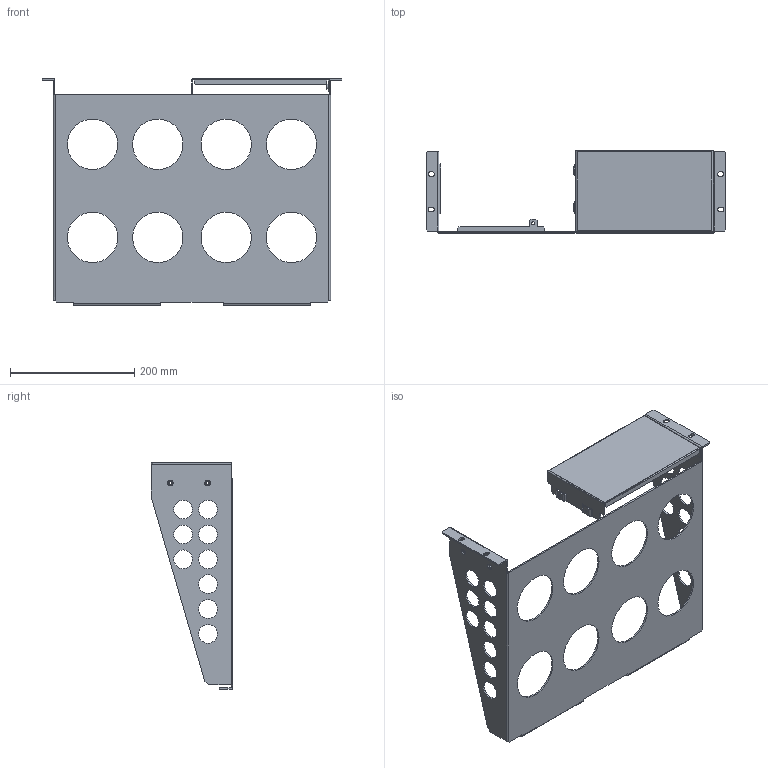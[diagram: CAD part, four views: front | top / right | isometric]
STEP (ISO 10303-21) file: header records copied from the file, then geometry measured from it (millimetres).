
FILE_DESCRIPTION((''),'2;1');
FILE_NAME('GRA-452_ASM','2023-06-29T11:43:07',('mike_lee'),(''),'CREO PARAMETRIC BY PTC INC, 2019080','CREO PARAMETRIC BY PTC INC, 2019080','');
FILE_SCHEMA(('CONFIG_CONTROL_DESIGN'));
Length unit declared in the file: millimetre
Products named in the file (7): 62RA-8330LO; 62RA-452LO-H; 62RA-452LO101_ASM; 62RA-8330HP; S-M4-1_NUT; 62RA-452HP101_ASM; GRA-452_ASM
Assembly tree (8 placements, depth 3):
  GRA-452_ASM
    62RA-452LO101_ASM
      62RA-8330LO
      62RA-452LO-H  x2
    62RA-452HP101_ASM
      62RA-8330HP
      S-M4-1_NUT  x2
Bounding box: 482.6 x 131.7 x 364.7 mm (x, y, z)
Volume: 484906.5 mm3; surface area: 436568.4 mm2
Topology: 6 solids, 8 shells, 368 faces, 908 edges, 554 vertices
Faces by surface type: plane 202, cylinder 138, cone 28
Entity records: 10258 total; most frequent: DIRECTION 1820, CARTESIAN_POINT 1716, ORIENTED_EDGE 1668, EDGE_CURVE 836, AXIS2_PLACEMENT_3D 628, VECTOR 564, LINE 564, VERTEX_POINT 508
